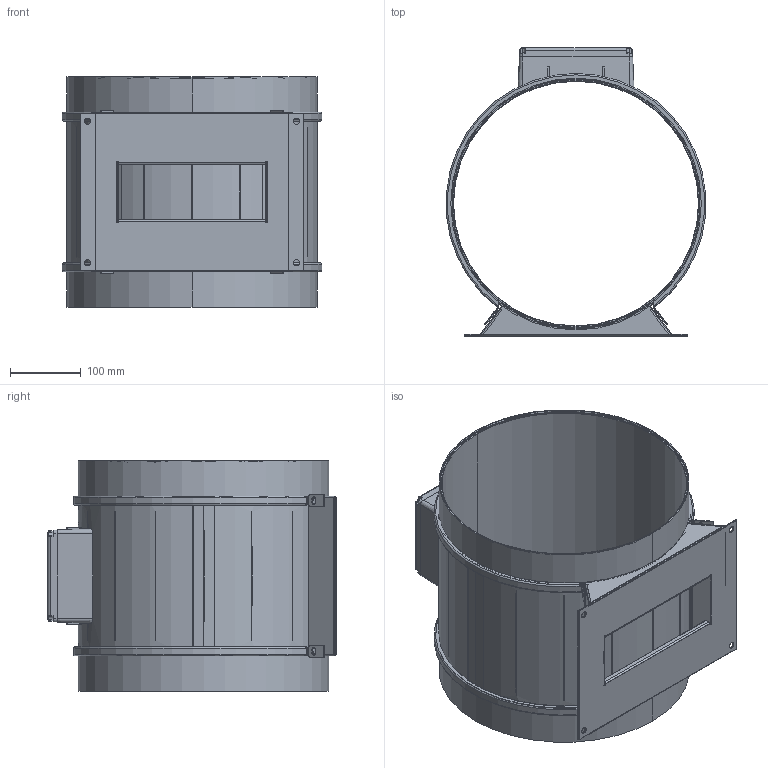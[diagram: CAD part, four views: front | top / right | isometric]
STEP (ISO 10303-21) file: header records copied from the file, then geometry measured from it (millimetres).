
FILE_DESCRIPTION (( 'STEP AP203' ), '1' );
FILE_NAME ('130712-00_EM355EC01.STEP', '2014-08-27T14:28:52', ( '' ), ( '' ), 'SwSTEP 2.0', 'SolidWorks 2012', '' );
FILE_SCHEMA (( 'CONFIG_CONTROL_DESIGN' ));
Length unit declared in the file: millimetre
Products named in the file (1): 130712-00_EM355EC01
Bounding box: 366.09 x 407 x 325 mm (x, y, z)
Surface area: 1049847.9 mm2 (no closed solid volume)
Topology: 0 solids, 19 shells, 613 faces, 3008 edges, 2284 vertices
Faces by surface type: plane 223, cylinder 219, bspline 88, torus 49, cone 34
Entity records: 39800 total; most frequent: CARTESIAN_POINT 17759, ORIENTED_EDGE 4169, DIRECTION 4130, EDGE_CURVE 3008, VERTEX_POINT 2284, VECTOR 1598, LINE 1598, AXIS2_PLACEMENT_3D 1266
